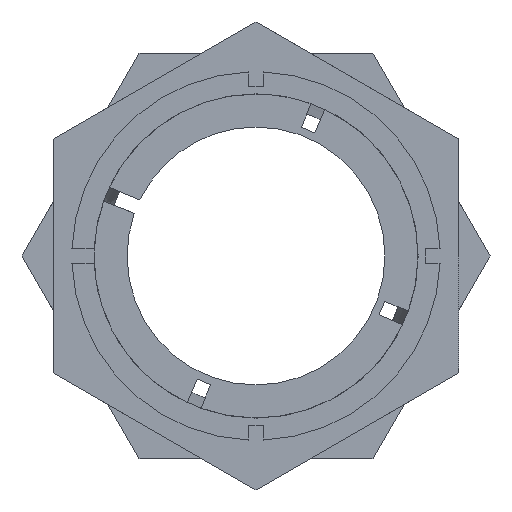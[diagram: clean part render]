
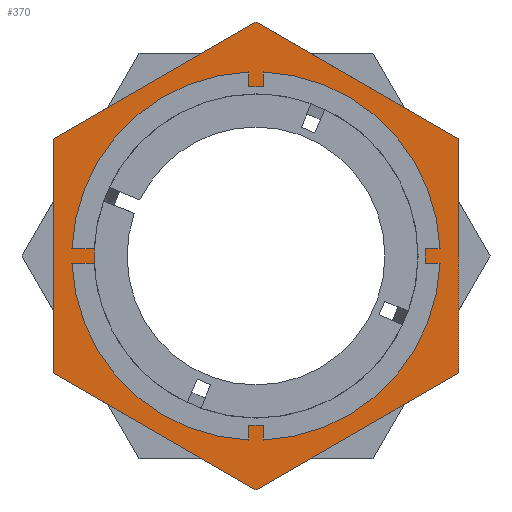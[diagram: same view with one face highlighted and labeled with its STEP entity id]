
A CAD part, left-side view. The second image highlights one B-rep face of the part: STEP entity #370.
In plain terms, the highlighted planar face has unit normal (-1, 0, 0).
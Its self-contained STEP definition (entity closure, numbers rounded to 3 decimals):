
#18 = VERTEX_POINT ( 'NONE', #1756 ) ;
#26 = VERTEX_POINT ( 'NONE', #446 ) ;
#30 = VERTEX_POINT ( 'NONE', #434 ) ;
#34 = VERTEX_POINT ( 'NONE', #419 ) ;
#35 = VERTEX_POINT ( 'NONE', #445 ) ;
#142 = VECTOR ( 'NONE', #1222, 1000. ) ;
#150 = LINE ( 'NONE', #1221, #142 ) ;
#155 = LINE ( 'NONE', #1215, #156 ) ;
#156 = VECTOR ( 'NONE', #1216, 1000. ) ;
#157 = LINE ( 'NONE', #1217, #158 ) ;
#158 = VECTOR ( 'NONE', #1218, 1000. ) ;
#160 = CIRCLE ( 'NONE', #659, 20.501 ) ;
#161 = LINE ( 'NONE', #1223, #162 ) ;
#162 = VECTOR ( 'NONE', #1224, 1000. ) ;
#163 = LINE ( 'NONE', #1225, #164 ) ;
#164 = VECTOR ( 'NONE', #1226, 1000. ) ;
#173 = CIRCLE ( 'NONE', #661, 20.501 ) ;
#289 = DIRECTION ( 'NONE',  ( 0., 0., -1. ) ) ;
#290 = DIRECTION ( 'NONE',  ( 1., 0., 0. ) ) ;
#294 = PLANE ( 'NONE',  #1645 ) ;
#295 = CARTESIAN_POINT ( 'NONE',  ( 28.52, 50., 0. ) ) ;
#370 = ADVANCED_FACE ( 'NONE', ( #1770, #1766 ), #294, .F. ) ;
#419 = CARTESIAN_POINT ( 'NONE',  ( 28.52, -27.5, -15.877 ) ) ;
#434 = CARTESIAN_POINT ( 'NONE',  ( 28.52, 27.5, -15.877 ) ) ;
#445 = CARTESIAN_POINT ( 'NONE',  ( 28.52, 0., 20.501 ) ) ;
#446 = CARTESIAN_POINT ( 'NONE',  ( 28.52, 0., 31.754 ) ) ;
#479 = VECTOR ( 'NONE', #997, 1000. ) ;
#484 = LINE ( 'NONE', #994, #479 ) ;
#659 = AXIS2_PLACEMENT_3D ( 'NONE', #1213, #1219, #1220 ) ;
#661 = AXIS2_PLACEMENT_3D ( 'NONE', #1233, #1235, #1236 ) ;
#994 = CARTESIAN_POINT ( 'NONE',  ( 28.52, 0., -31.754 ) ) ;
#997 = DIRECTION ( 'NONE',  ( 0., -0.866, -0.5 ) ) ;
#1213 = CARTESIAN_POINT ( 'NONE',  ( 28.52, 0., 0. ) ) ;
#1215 = CARTESIAN_POINT ( 'NONE',  ( 28.52, 0., 31.754 ) ) ;
#1216 = DIRECTION ( 'NONE',  ( 0., 0.866, 0.5 ) ) ;
#1217 = CARTESIAN_POINT ( 'NONE',  ( 28.52, 27.5, 15.877 ) ) ;
#1218 = DIRECTION ( 'NONE',  ( 0., 0.866, -0.5 ) ) ;
#1219 = DIRECTION ( 'NONE',  ( -1., 0., 0. ) ) ;
#1220 = DIRECTION ( 'NONE',  ( 0., 0., 1. ) ) ;
#1221 = CARTESIAN_POINT ( 'NONE',  ( 28.52, -27.5, -15.877 ) ) ;
#1222 = DIRECTION ( 'NONE',  ( 0., -0.866, 0.5 ) ) ;
#1223 = CARTESIAN_POINT ( 'NONE',  ( 28.52, -27.5, 15.877 ) ) ;
#1224 = DIRECTION ( 'NONE',  ( 0., 0., 1. ) ) ;
#1225 = CARTESIAN_POINT ( 'NONE',  ( 28.52, 27.5, -15.877 ) ) ;
#1226 = DIRECTION ( 'NONE',  ( 0., 0., -1. ) ) ;
#1233 = CARTESIAN_POINT ( 'NONE',  ( 28.52, 0., 0. ) ) ;
#1235 = DIRECTION ( 'NONE',  ( -1., 0., 0. ) ) ;
#1236 = DIRECTION ( 'NONE',  ( 0., 0., 1. ) ) ;
#1267 = CARTESIAN_POINT ( 'NONE',  ( 28.52, -27.5, 15.877 ) ) ;
#1270 = CARTESIAN_POINT ( 'NONE',  ( 28.52, 27.5, 15.877 ) ) ;
#1279 = CARTESIAN_POINT ( 'NONE',  ( 28.52, 0., -31.754 ) ) ;
#1526 = EDGE_CURVE ( 'NONE', #30, #1681, #484, .T. ) ;
#1612 = EDGE_CURVE ( 'NONE', #1668, #26, #155, .T. ) ;
#1613 = EDGE_CURVE ( 'NONE', #26, #1672, #157, .T. ) ;
#1614 = EDGE_CURVE ( 'NONE', #35, #18, #160, .T. ) ;
#1615 = EDGE_CURVE ( 'NONE', #1681, #34, #150, .T. ) ;
#1616 = EDGE_CURVE ( 'NONE', #34, #1668, #161, .T. ) ;
#1617 = EDGE_CURVE ( 'NONE', #1672, #30, #163, .T. ) ;
#1621 = EDGE_CURVE ( 'NONE', #18, #35, #173, .T. ) ;
#1645 = AXIS2_PLACEMENT_3D ( 'NONE', #295, #290, #289 ) ;
#1668 = VERTEX_POINT ( 'NONE', #1267 ) ;
#1672 = VERTEX_POINT ( 'NONE', #1270 ) ;
#1681 = VERTEX_POINT ( 'NONE', #1279 ) ;
#1756 = CARTESIAN_POINT ( 'NONE',  ( 28.52, 0., -20.501 ) ) ;
#1766 = FACE_OUTER_BOUND ( 'NONE', #1838, .T. ) ;
#1770 = FACE_BOUND ( 'NONE', #1826, .T. ) ;
#1826 = EDGE_LOOP ( 'NONE', ( #1921, #1920 ) ) ;
#1838 = EDGE_LOOP ( 'NONE', ( #1919, #1918, #1917, #1916, #1915, #1914 ) ) ;
#1914 = ORIENTED_EDGE ( 'NONE', *, *, #1612, .T. ) ;
#1915 = ORIENTED_EDGE ( 'NONE', *, *, #1616, .T. ) ;
#1916 = ORIENTED_EDGE ( 'NONE', *, *, #1615, .T. ) ;
#1917 = ORIENTED_EDGE ( 'NONE', *, *, #1526, .T. ) ;
#1918 = ORIENTED_EDGE ( 'NONE', *, *, #1617, .T. ) ;
#1919 = ORIENTED_EDGE ( 'NONE', *, *, #1613, .T. ) ;
#1920 = ORIENTED_EDGE ( 'NONE', *, *, #1621, .F. ) ;
#1921 = ORIENTED_EDGE ( 'NONE', *, *, #1614, .F. ) ;
